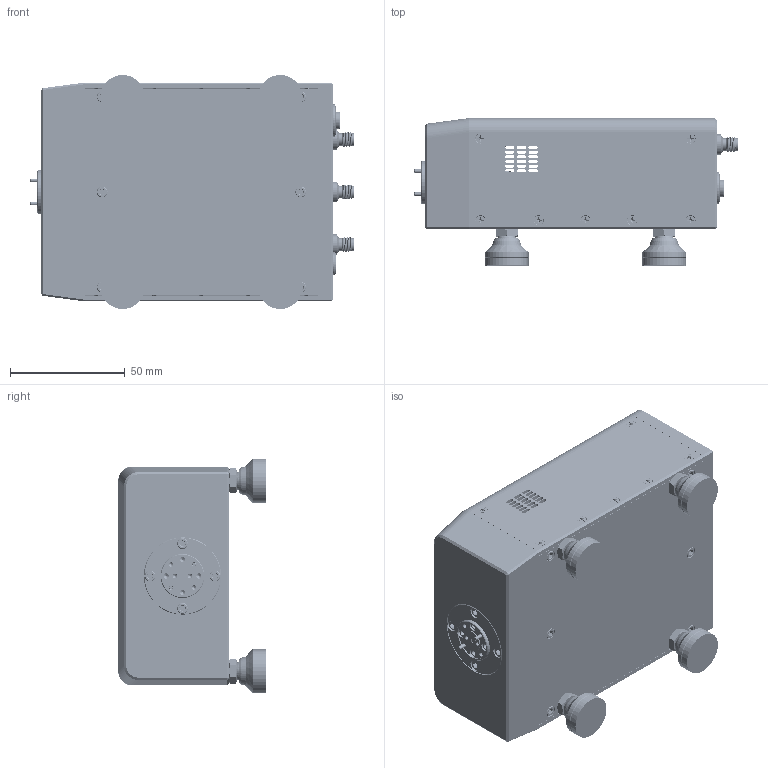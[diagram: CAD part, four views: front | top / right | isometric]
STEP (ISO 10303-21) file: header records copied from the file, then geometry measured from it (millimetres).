
FILE_DESCRIPTION (( 'STEP AP214' ), '1' );
FILE_NAME ('TO-TD-A.STEP', '2024-11-20T20:11:34', ( '' ), ( '' ), 'SwSTEP 2.0', 'SolidWorks 2021', '' );
FILE_SCHEMA (( 'AUTOMOTIVE_DESIGN' ));
Length unit declared in the file: inch
Products named in the file (1): TO-TD-A
Bounding box: 140.66 x 64.14 x 101.85 mm (x, y, z)
Volume: 191009.2 mm3; surface area: 127199.7 mm2
Topology: 74 solids, 74 shells, 4212 faces, 11176 edges, 7111 vertices
Faces by surface type: cylinder 2019, plane 994, cone 791, bspline 363, sphere 37, torus 8
Entity records: 303585 total; most frequent: CARTESIAN_POINT 154860, ORIENTED_EDGE 21938, DIRECTION 16721, EDGE_CURVE 10969, VERTEX_POINT 7081, AXIS2_PLACEMENT_3D 6363, EDGE_LOOP 4604, LENGTH_MEASURE_WITH_UNIT 4287
